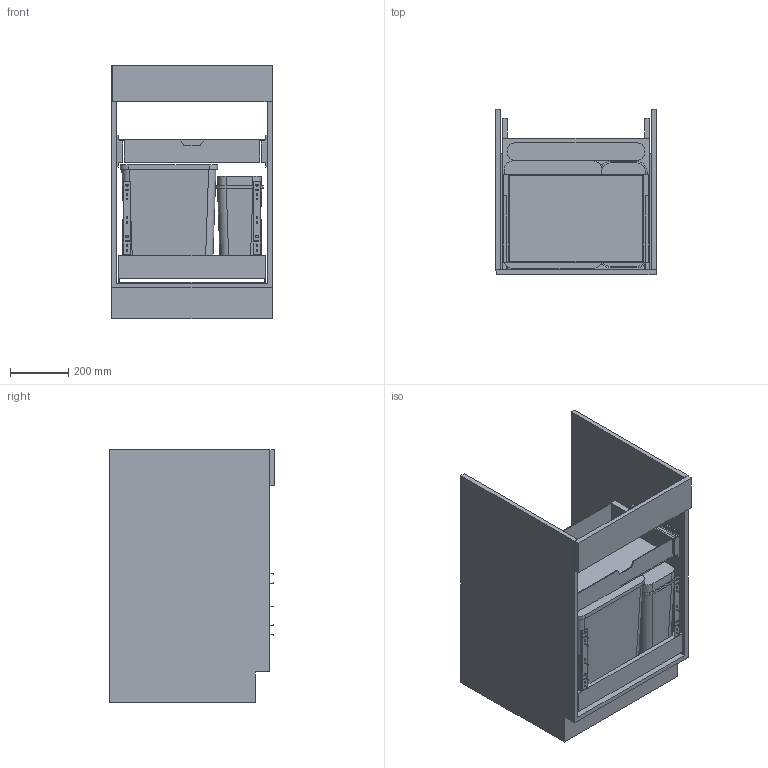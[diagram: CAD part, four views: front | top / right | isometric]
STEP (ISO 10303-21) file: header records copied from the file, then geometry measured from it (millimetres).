
FILE_DESCRIPTION((''),'2;1');
FILE_NAME('5360_00','2024-09-03T17:23:26',('bru'),(''),'CREO PARAMETRIC BY PTC INC, 2022024','CREO PARAMETRIC BY PTC INC, 2022024','');
FILE_SCHEMA(('AUTOMOTIVE_DESIGN { 1 0 10303 214 1 1 1 1 }'));
Length unit declared in the file: millimetre
Products named in the file (1): 5360_00
Bounding box: 550 x 566 x 867 mm (x, y, z)
Volume: 83895335.1 mm3; surface area: 5361541.5 mm2
Topology: 55 solids, 55 shells, 627 faces, 1732 edges, 1532 vertices
Faces by surface type: plane 335, cylinder 292
Entity records: 22409 total; most frequent: DIRECTION 4078, CARTESIAN_POINT 3915, ORIENTED_EDGE 2876, AXIS2_PLACEMENT_3D 1490, EDGE_CURVE 1438, VECTOR 1095, LINE 1095, VERTEX_POINT 960
